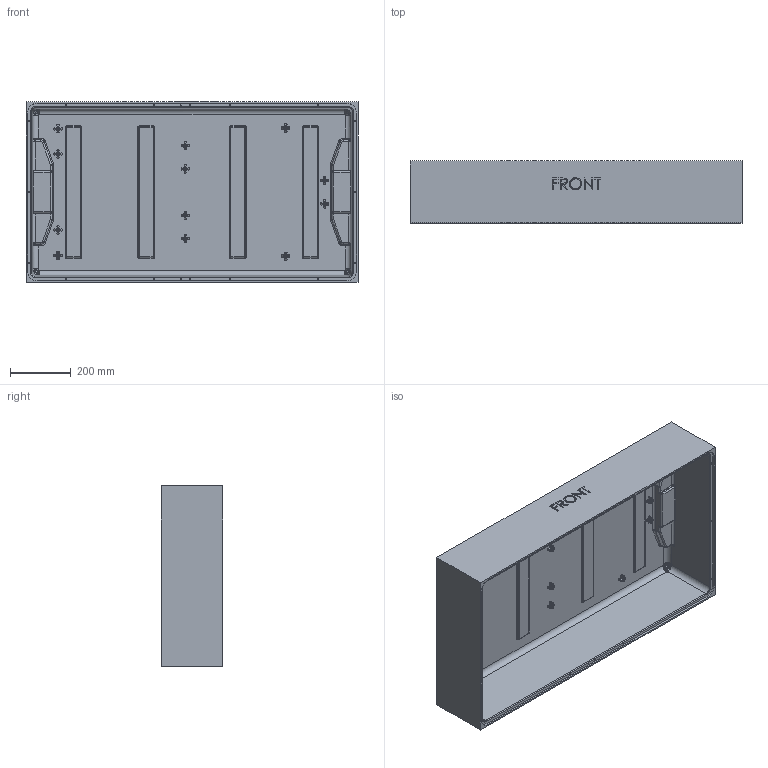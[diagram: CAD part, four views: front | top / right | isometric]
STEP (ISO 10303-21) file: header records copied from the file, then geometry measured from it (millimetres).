
FILE_DESCRIPTION (( 'STEP AP203' ), '1' );
FILE_NAME ('1780-CASE-TOP.STEP', '2007-02-28T22:20:16', ( ' ' ), ( ' ' ), 'SwSTEP 2.0', 'SolidWorks 2006233', '' );
FILE_SCHEMA (( 'CONFIG_CONTROL_DESIGN' ));
Products named in the file (1): 1780-CASE-TOP
Bounding box: 1088.93 x 202.62 x 592.36 mm (x, y, z)
Volume: 17546732.3 mm3; surface area: 2580967.7 mm2
Topology: 1 solids, 1 shells, 1905 faces, 4443 edges, 2367 vertices
Faces by surface type: bspline 485, cylinder 472, torus 296, plane 276, sphere 236, cone 140
Entity records: 65837 total; most frequent: CARTESIAN_POINT 26861, ORIENTED_EDGE 8404, DIRECTION 8140, EDGE_CURVE 4202, AXIS2_PLACEMENT_3D 3519, VERTEX_POINT 2354, CIRCLE 2098, EDGE_LOOP 1960
